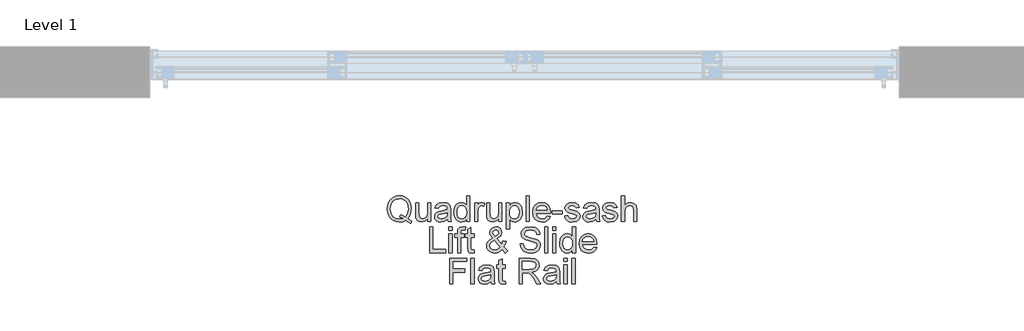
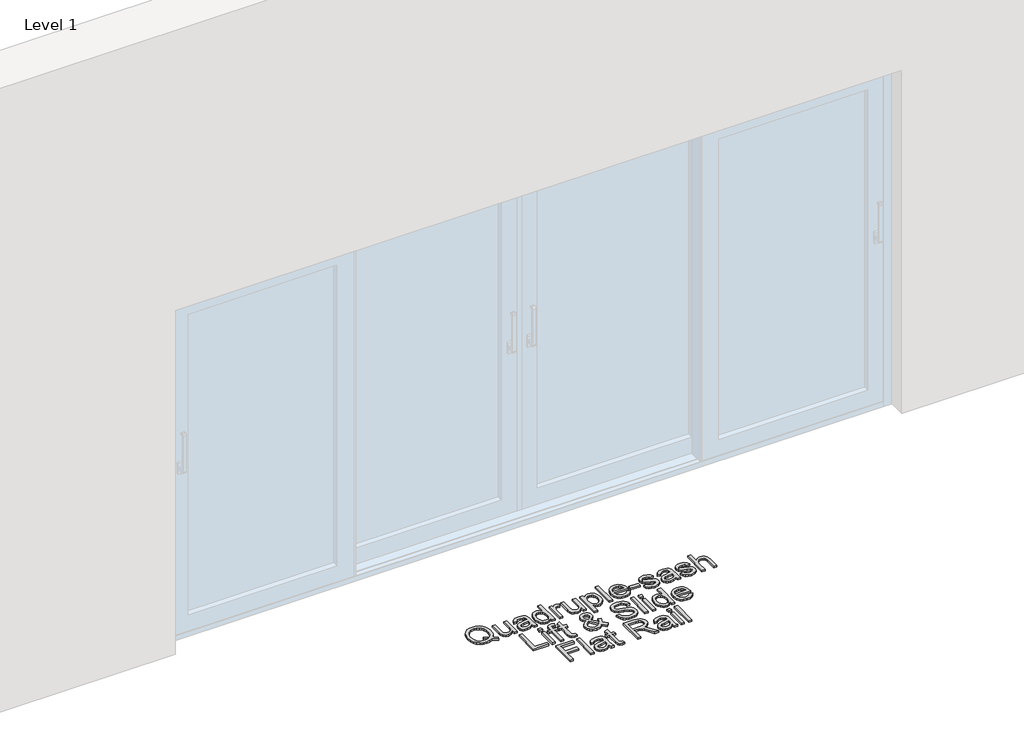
# One storey, part 5 of 7: 1 proxy.
"""IFC4 building model written with IfcOpenShell, lengths in millimetres."""

from ifc_helpers import new_model, si_unit, origin, origin_with_axes, place, context, project, spatial, polyline, outline, extrude, element, save

model = new_model("IFC4")

# Units and contexts
model_context = context("Model", 3, world=origin())
ifc_project = project(units=[si_unit("LENGTHUNIT", "METRE", prefix="MILLI")], contexts=[model_context])

# Site, building, storey
site = spatial("IfcSite", under=ifc_project)
building = spatial("IfcBuilding", under=site)
storey = spatial("IfcBuildingStorey", under=building, Name="Level 1", Elevation=0.0)

# Proxy
placement = place(None, origin())
element("IfcBuildingElementProxy", 1, Name="150mm Arial", ObjectType="150mm Arial", at=placement, inside=storey, context=model_context, shape_type="SweptSolid", body=[
    extrude(outline(polyline([(12292.9620646, -879.5997474), (12316.3225713, -895.3083086), (12311.2457998, -909.1038834), (12280.2333476, -891.4823358), (12262.8049381, -897.8834825), (12243.6290891, -900.0171981), (12224.3612696, -897.5569873), (12206.9512542, -890.1763547), (12192.3693316, -878.3397515), (12181.5857906, -862.5116287), (12174.922528, -843.5611074), (12172.7014404, -822.3573089), (12174.9179294, -801.1351163), (12181.5673965, -781.9086836), (12192.3095508, -765.855233), (12206.8041014, -754.151987), (12224.1497375, -747.0058793), (12243.4451481, -744.6238433), (12262.8923101, -747.0610616), (12280.3253181, -754.3727162), (12294.7968761, -766.0713637), (12305.3596879, -781.6695603), (12311.8160169, -800.3395715), (12313.9681266, -821.2536629), (12308.7442022, -854.1791015), (12302.1867057, -867.8367206), (12292.9620646, -879.5997474)]), holes=[polyline([(12248.8162252, -854.5469835), (12264.6535451, -860.534263), (12277.4374445, -868.8575931), (12290.7087874, -849.4334238), (12295.1325684, -822.2101561), (12293.5690699, -805.6324737), (12288.8785745, -791.2896744), (12281.1760452, -779.5450417), (12270.5764452, -770.7618591), (12257.7971444, -765.2850159), (12243.5555127, -763.4594015), (12223.0276974, -767.152017), (12206.3258548, -778.2298636), (12195.2342126, -796.6377589), (12191.5369986, -822.3205207), (12195.1928259, -847.4514595), (12206.1603079, -865.9697195), (12222.8115667, -877.3786598), (12243.5187245, -881.18164), (12263.7890224, -877.318879), (12243.9601829, -868.9679577), (12248.8162252, -854.5469835)])]), origin_with_axes(), (0.0, 0.0, 1.0), 10.0),
    extrude(outline(polyline([(12410.5003621, -897.6627533), (12410.5003621, -878.6432542), (12395.7482941, -894.6737121), (12376.5080658, -900.0171981), (12358.7945477, -896.2648018), (12346.5808654, -886.8470227), (12340.970665, -872.9778715), (12339.867019, -855.4666885), (12339.867019, -787.0038492), (12358.7025772, -787.0038492), (12358.7025772, -846.6007324), (12359.8430114, -865.8041726), (12367.2926218, -877.0797557), (12381.3273199, -881.18164), (12397.0542752, -876.9877852), (12407.4469415, -865.5650493), (12410.5003621, -844.5773814), (12410.5003621, -787.0038492), (12429.3359203, -787.0038492), (12429.3359203, -897.6627533), (12410.5003621, -897.6627533)])), origin_with_axes(), (0.0, 0.0, 1.0), 10.0),
    extrude(outline(polyline([(12525.8681558, -883.5360847), (12507.6028147, -896.30159), (12487.4244873, -900.0171981), (12471.6837364, -897.782315), (12460.072461, -891.0776656), (12452.9125576, -880.8965314), (12450.5259232, -868.2321937), (12454.1311667, -853.3329729), (12463.6041281, -842.5172423), (12476.7926976, -836.3368247), (12493.08987, -833.5041334), (12525.7577912, -827.0294103), (12525.8681558, -822.8355555), (12524.5713718, -814.4294519), (12520.6810197, -808.9296161), (12511.9806105, -804.846126), (12499.8588987, -803.4849626), (12480.8026114, -807.1086002), (12471.7159261, -819.966076), (12452.880368, -817.6116312), (12461.0289541, -799.2175314), (12477.4364911, -788.438589), (12502.2869199, -784.6494044), (12525.1139977, -787.9971306), (12538.0082616, -796.4032342), (12543.784009, -809.1871335), (12544.7037139, -825.6682469), (12544.7037139, -849.10233), (12545.6602071, -881.8254334), (12549.4126035, -897.6627533), (12530.5770453, -897.6627533), (12525.8681558, -883.5360847)]), holes=[polyline([(12525.8681558, -845.8649684), (12495.481103, -851.6407157), (12479.2759011, -854.6941363), (12471.9366553, -859.6605432), (12469.3614813, -866.9078185), (12474.9716818, -877.0981498), (12491.434401, -881.18164), (12510.4906884, -876.6750855), (12522.777947, -865.7673844), (12525.7577912, -851.1992574), (12525.8681558, -845.8649684)])]), origin_with_axes(), (0.0, 0.0, 1.0), 10.0),
    extrude(outline(polyline([(12638.8815047, -897.6627533), (12638.8815047, -879.894053), (12626.4195021, -894.9864118), (12609.1934277, -900.0171981), (12597.0165337, -898.1961822), (12585.8697092, -892.7331346), (12576.433536, -884.0097328), (12569.3885958, -872.4076544), (12565.001603, -858.3959489), (12563.5392721, -842.4436659), (12568.9287433, -812.4612833), (12575.6609838, -800.5694978), (12585.0787629, -791.8231033), (12596.4693092, -786.4428292), (12609.1198513, -784.6494044), (12626.4838815, -789.7813583), (12638.8815047, -803.1170806), (12638.8815047, -746.9782881), (12657.7170629, -746.9782881), (12657.7170629, -897.6627533), (12638.8815047, -897.6627533)]), holes=[polyline([(12582.3748303, -842.3700895), (12584.4993488, -859.4076244), (12590.8729043, -871.5247376), (12600.1343336, -878.7674144), (12610.9224731, -881.18164), (12621.7060141, -878.877779), (12630.7329185, -871.966196), (12636.8443582, -860.3181323), (12638.8815047, -843.8048292), (12636.80757, -825.7510203), (12630.5857657, -813.2338354), (12621.328935, -805.9221808), (12610.1499209, -803.4849626), (12599.2514168, -805.8256118), (12590.3210814, -812.8475594), (12584.361393, -824.9094903), (12582.3748303, -842.3700895)])]), origin_with_axes(), (0.0, 0.0, 1.0), 10.0),
    extrude(outline(polyline([(12685.9704001, -897.6627533), (12685.9704001, -787.0038492), (12702.4515135, -787.0038492), (12702.4515135, -803.374598), (12714.1501609, -788.2914362), (12725.9223848, -784.6494044), (12744.8315193, -790.4619399), (12738.5407372, -807.3477235), (12725.2969854, -803.4849626), (12714.6468016, -807.2005707), (12707.8593788, -817.5012666), (12704.8059582, -839.5006099), (12704.8059582, -897.6627533), (12685.9704001, -897.6627533)])), origin_with_axes(), (0.0, 0.0, 1.0), 10.0),
    extrude(outline(polyline([(12827.2370862, -897.6627533), (12827.2370862, -878.6432542), (12812.4850182, -894.6737121), (12793.2447899, -900.0171981), (12775.5312718, -896.2648018), (12763.3175896, -886.8470227), (12757.7073892, -872.9778715), (12756.6037432, -855.4666885), (12756.6037432, -787.0038492), (12775.4393013, -787.0038492), (12775.4393013, -846.6007324), (12776.5797355, -865.8041726), (12784.0293459, -877.0797557), (12798.064044, -881.18164), (12813.7909993, -876.9877852), (12824.1836657, -865.5650493), (12827.2370862, -844.5773814), (12827.2370862, -787.0038492), (12846.0726444, -787.0038492), (12846.0726444, -897.6627533), (12827.2370862, -897.6627533)])), origin_with_axes(), (0.0, 0.0, 1.0), 10.0),
    extrude(outline(polyline([(12871.9715369, -940.0427592), (12871.9715369, -787.0038492), (12890.807095, -787.0038492), (12890.807095, -805.4715254), (12903.8301176, -789.8549347), (12921.414877, -784.6494044), (12934.1527911, -786.4704203), (12945.2904185, -791.9334679), (12954.3587097, -800.7074535), (12960.8886151, -812.4612833), (12966.1493276, -841.4871727), (12964.6640041, -857.5958055), (12960.2080334, -872.0029842), (12952.9239699, -883.9775431), (12942.9543678, -892.7883169), (12931.3430924, -898.2099778), (12919.1340086, -900.0171981), (12902.7448658, -895.1795499), (12890.807095, -882.9474735), (12890.807095, -940.0427592), (12871.9715369, -940.0427592)]), holes=[polyline([(12890.807095, -843.2162181), (12892.8442416, -860.1020016), (12898.9556812, -871.9110137), (12907.9733886, -878.8639834), (12918.7293384, -881.18164), (12929.6600322, -878.7812099), (12938.9076659, -871.5799199), (12945.2122436, -859.3386465), (12947.3137695, -841.8182665), (12945.2628273, -825.0244534), (12939.110001, -813.0498945), (12930.1060891, -805.8761955), (12919.5018906, -803.4849626), (12908.8563054, -806.0279469), (12899.5075042, -813.6568997), (12892.9821973, -826.1326979), (12890.807095, -843.2162181)])]), origin_with_axes(), (0.0, 0.0, 1.0), 10.0),
    extrude(outline(polyline([(12987.3393305, -897.6627533), (12987.3393305, -746.9782881), (13006.1748887, -746.9782881), (13006.1748887, -897.6627533), (12987.3393305, -897.6627533)])), origin_with_axes(), (0.0, 0.0, 1.0), 10.0),
    extrude(outline(polyline([(13111.9041741, -864.7005266), (13130.3718503, -867.0549713), (13123.7177847, -880.9701078), (13113.0997906, -891.3719712), (13098.7569913, -897.8558914), (13080.9285101, -900.0171981), (13058.8279993, -896.2877944), (13041.822654, -885.0995832), (13030.9793322, -867.1791315), (13027.3648916, -843.2530063), (13031.0161204, -818.5221391), (13041.9698068, -800.0268718), (13058.7452258, -788.4937713), (13079.8616523, -784.6494044), (13100.3204898, -788.4845742), (13116.6682459, -799.9900836), (13127.3874076, -818.4485627), (13130.9604615, -843.1426417), (13130.8500969, -848.2194132), (13046.2004498, -848.2194132), (13049.460804, -862.3184907), (13057.0345745, -872.6835659), (13067.9652683, -879.0571214), (13081.2963921, -881.18164), (13099.7640683, -877.2453026), (13111.9041741, -864.7005266)]), holes=[polyline([(13046.2004498, -829.383855), (13112.1249033, -829.383855), (13109.5773205, -819.4326471), (13104.5833224, -812.3141305), (13093.6020449, -805.6922545), (13079.7880759, -803.4849626), (13067.0915486, -805.2461976), (13056.5931161, -810.5299028), (13049.2952571, -818.765861), (13046.2004498, -829.383855)])]), origin_with_axes(), (0.0, 0.0, 1.0), 10.0),
    extrude(outline(polyline([(13140.3782405, -852.9283027), (13140.3782405, -834.0927446), (13199.2393598, -834.0927446), (13199.2393598, -852.9283027), (13140.3782405, -852.9283027)])), origin_with_axes(), (0.0, 0.0, 1.0), 10.0),
    extrude(outline(polyline([(13213.3660284, -864.7005266), (13232.2015865, -862.3460818), (13235.1722336, -870.4026975), (13240.9203898, -876.3255976), (13260.8963822, -881.18164), (13280.0998223, -876.7302678), (13286.3538162, -866.2824192), (13284.7811207, -861.4815591), (13280.0630341, -857.8211333), (13260.675653, -852.4500561), (13232.3119511, -843.2346122), (13219.932722, -832.4740638), (13215.7204732, -817.2805374), (13219.1049875, -803.2458393), (13228.3388256, -792.5220791), (13240.3133845, -786.9486669), (13256.5185864, -784.6494044), (13279.4376347, -788.3466185), (13294.0057617, -798.3530087), (13300.4804848, -815.2571864), (13281.6449267, -817.6116312), (13274.5631983, -807.2189648), (13257.9901144, -803.4849626), (13239.9638966, -807.0534179), (13234.5560313, -815.367551), (13236.8001115, -820.8489927), (13243.8266576, -825.0060593), (13260.0502536, -829.015973), (13287.6965855, -837.8819291), (13300.5356671, -847.9251076), (13305.1893744, -864.2958564), (13299.7263267, -882.3220741), (13283.9625833, -895.4002791), (13260.6388648, -900.0171981), (13241.6469568, -897.791512), (13227.7870026, -891.1144538), (13218.5347704, -880.0595999), (13213.3660284, -864.7005266)])), origin_with_axes(), (0.0, 0.0, 1.0), 10.0),
    extrude(outline(polyline([(13397.0127204, -883.5360847), (13378.7473793, -896.30159), (13358.5690519, -900.0171981), (13342.828301, -897.782315), (13331.2170255, -891.0776656), (13324.0571222, -880.8965314), (13321.6704878, -868.2321937), (13325.2757313, -853.3329729), (13334.7486927, -842.5172423), (13347.9372622, -836.3368247), (13364.2344346, -833.5041334), (13396.9023558, -827.0294103), (13397.0127204, -822.8355555), (13395.7159363, -814.4294519), (13391.8255842, -808.9296161), (13383.1251751, -804.846126), (13371.0034633, -803.4849626), (13351.947176, -807.1086002), (13342.8604907, -819.966076), (13324.0249325, -817.6116312), (13332.1735187, -799.2175314), (13348.5810557, -788.438589), (13373.4314845, -784.6494044), (13396.2585623, -787.9971306), (13409.1528262, -796.4032342), (13414.9285735, -809.1871335), (13415.8482785, -825.6682469), (13415.8482785, -849.10233), (13416.8047717, -881.8254334), (13420.5571681, -897.6627533), (13401.7216099, -897.6627533), (13397.0127204, -883.5360847)]), holes=[polyline([(13397.0127204, -845.8649684), (13366.6256676, -851.6407157), (13350.4204657, -854.6941363), (13343.0812199, -859.6605432), (13340.5060459, -866.9078185), (13346.1162463, -877.0981498), (13362.5789656, -881.18164), (13381.635253, -876.6750855), (13393.9225116, -865.7673844), (13396.9023558, -851.1992574), (13397.0127204, -845.8649684)])]), origin_with_axes(), (0.0, 0.0, 1.0), 10.0),
    extrude(outline(polyline([(13434.6838367, -864.7005266), (13453.5193948, -862.3460818), (13456.4900419, -870.4026975), (13462.2381981, -876.3255976), (13482.2141905, -881.18164), (13501.4176306, -876.7302678), (13507.6716245, -866.2824192), (13506.098929, -861.4815591), (13501.3808424, -857.8211333), (13481.9934613, -852.4500561), (13453.6297594, -843.2346122), (13441.2505303, -832.4740638), (13437.0382814, -817.2805374), (13440.4227958, -803.2458393), (13449.6566339, -792.5220791), (13461.6311928, -786.9486669), (13477.8363947, -784.6494044), (13500.755443, -788.3466185), (13515.32357, -798.3530087), (13521.7982931, -815.2571864), (13502.962735, -817.6116312), (13495.8810066, -807.2189648), (13479.3079227, -803.4849626), (13461.2817049, -807.0534179), (13455.8738396, -815.367551), (13458.1179198, -820.8489927), (13465.1444659, -825.0060593), (13481.3680619, -829.015973), (13509.0143938, -837.8819291), (13521.8534754, -847.9251076), (13526.5071827, -864.2958564), (13521.044135, -882.3220741), (13505.2803916, -895.4002791), (13481.9566731, -900.0171981), (13462.9647651, -897.791512), (13449.1048109, -891.1144538), (13439.8525787, -880.0595999), (13434.6838367, -864.7005266)])), origin_with_axes(), (0.0, 0.0, 1.0), 10.0),
    extrude(outline(polyline([(13547.6971856, -897.6627533), (13547.6971856, -746.9782881), (13566.5327438, -746.9782881), (13566.5327438, -802.3813166), (13581.2204324, -789.0823825), (13599.3110295, -784.6494044), (13620.4642442, -789.4870527), (13633.3033259, -802.8595632), (13637.1660868, -827.6180215), (13637.1660868, -897.6627533), (13618.3305287, -897.6627533), (13618.3305287, -829.567796), (13616.8314095, -817.7771781), (13612.3340522, -809.7021683), (13605.0867768, -805.039264), (13595.337904, -803.4849626), (13579.9052543, -807.6788173), (13569.6045584, -819.046371), (13566.5327438, -838.8752105), (13566.5327438, -897.6627533), (13547.6971856, -897.6627533)])), origin_with_axes(), (0.0, 0.0, 1.0), 10.0),
    extrude(outline(polyline([(12421.0953636, -1080.6249801), (12421.0953636, -929.9405149), (12439.9309217, -929.9405149), (12439.9309217, -1061.789422), (12515.2731543, -1061.789422), (12515.2731543, -1080.6249801), (12421.0953636, -1080.6249801)])), origin_with_axes(), (0.0, 0.0, 1.0), 10.0),
    extrude(outline(polyline([(12534.1087125, -948.776073), (12534.1087125, -929.9405149), (12552.9442706, -929.9405149), (12552.9442706, -948.776073), (12534.1087125, -948.776073)])), origin_with_axes(), (0.0, 0.0, 1.0), 10.0),
    extrude(outline(polyline([(12534.1087125, -1080.6249801), (12534.1087125, -969.966076), (12552.9442706, -969.966076), (12552.9442706, -1080.6249801), (12534.1087125, -1080.6249801)])), origin_with_axes(), (0.0, 0.0, 1.0), 10.0),
    extrude(outline(polyline([(12682.4387329, -1064.9164189), (12684.7931777, -1081.1768031), (12670.7032973, -1082.9794249), (12654.9211597, -1079.8524279), (12647.048485, -1071.6486594), (12644.7676166, -1050.2747155), (12644.7676166, -988.8016341), (12630.640948, -988.8016341), (12630.640948, -969.966076), (12644.7676166, -969.966076), (12644.7676166, -943.0739021), (12663.6031748, -932.0006541), (12663.6031748, -969.966076), (12682.4387329, -969.966076), (12682.4387329, -988.8016341), (12663.6031748, -988.8016341), (12663.6031748, -1049.7228925), (12664.5964562, -1059.4349772), (12667.8154236, -1062.8746738), (12674.2349645, -1064.1438667), (12682.4387329, -1064.9164189)])), origin_with_axes(), (0.0, 0.0, 1.0), 10.0),
    extrude(outline(polyline([(12585.9064974, -1080.6249801), (12585.9064974, -988.8016341), (12569.425384, -988.8016341), (12569.425384, -969.966076), (12585.9064974, -969.966076), (12585.9064974, -958.8192515), (12587.8930602, -943.1106903), (12597.5315685, -931.8902895), (12616.5142794, -927.5860701), (12633.6943686, -929.6462093), (12630.9352536, -947.3045451), (12620.0827348, -946.4216283), (12608.2185404, -949.5486252), (12604.7420556, -961.2104845), (12604.7420556, -969.966076), (12625.9320585, -969.966076), (12625.9320585, -988.8016341), (12604.7420556, -988.8016341), (12604.7420556, -1080.6249801), (12585.9064974, -1080.6249801)])), origin_with_axes(), (0.0, 0.0, 1.0), 10.0),
    extrude(outline(polyline([(12846.550891, -1062.0101512), (12826.5748987, -1077.7371064), (12803.214392, -1082.9794249), (12782.4290592, -1079.0982698), (12766.4261924, -1067.4548047), (12758.1764387, -1054.054703), (12755.4265208, -1039.1646793), (12757.6384113, -1025.9669127), (12764.2740828, -1014.1119154), (12775.3059441, -1003.6088844), (12790.7064041, -994.4670168), (12777.5546228, -975.4107295), (12774.2620789, -961.2840609), (12776.855647, -948.5645409), (12784.6363512, -937.6292486), (12796.3441957, -930.0968647), (12810.7191847, -927.5860701), (12824.3951978, -929.9865001), (12835.3304901, -937.1877902), (12842.504189, -947.7552005), (12844.895422, -960.2539913), (12843.1249899, -970.7478252), (12837.8136936, -980.4507128), (12816.5685084, -997.4836492), (12843.8285642, -1031.4391574), (12851.9587563, -1010.5802482), (12870.7943145, -1014.6637384), (12857.4769862, -1045.6761906), (12880.2120935, -1068.4848743), (12866.0854249, -1082.9794249), (12846.550891, -1062.0101512)]), holes=[polyline([(12807.0403647, -985.6010608), (12822.5281967, -973.9208074), (12826.0598639, -962.8291653), (12821.4061566, -951.0017591), (12809.7626915, -946.4216283), (12797.8617089, -950.9649709), (12793.0976371, -962.0566131), (12794.7163179, -968.9544005), (12799.6091484, -976.6247401), (12807.0403647, -985.6010608)]), polyline([(12833.9325386, -1048.4353055), (12800.3081242, -1006.4599699), (12779.614762, -1022.2421075), (12774.2620789, -1036.6630817), (12776.0922919, -1045.5474319), (12781.5829306, -1054.7628758), (12790.4304926, -1061.798619), (12802.3314752, -1064.1438667), (12819.640323, -1059.766071), (12833.9325386, -1048.4353055)])]), origin_with_axes(), (0.0, 0.0, 1.0), 10.0),
    extrude(outline(polyline([(12953.1998814, -1028.8271952), (12972.0354395, -1028.8271952), (12978.1054925, -1047.6811474), (12992.9311369, -1059.6005241), (13015.5190914, -1064.1438667), (13035.2007781, -1060.7041701), (13047.9111011, -1051.2496028), (13052.0865617, -1038.6128563), (13048.9595647, -1026.8590265), (13036.1572713, -1018.3057701), (13008.7316686, -1011.1136771), (12979.2091385, -1001.8246567), (12963.1878776, -987.8083527), (12957.9087709, -969.0831592), (12959.5412473, -958.0512978), (12964.4386763, -947.7643976), (12972.4722994, -939.0455943), (12983.5133578, -932.7180239), (13011.4356012, -927.5860701), (13041.2340428, -932.9571472), (13052.6567788, -939.5882202), (13061.0996706, -948.7392848), (13066.4431566, -959.840124), (13068.5676751, -972.3205207), (13049.7321169, -972.3205207), (13046.2740262, -961.0817258), (13039.0635391, -952.9699278), (13027.797153, -948.0587031), (13012.1713652, -946.4216283), (12996.1776955, -948.040309), (12985.205615, -952.8963514), (12978.8596506, -960.0424591), (12976.7443291, -968.5313362), (12978.2434482, -975.7694144), (12982.7408056, -981.591147), (13013.4957404, -992.1125721), (13046.8258492, -1001.5671393), (13057.5634049, -1008.4005474), (13065.054402, -1016.8342421), (13069.4551904, -1026.7762531), (13070.9221198, -1038.1346097), (13069.2344612, -1049.7458851), (13064.1714852, -1060.6673819), (13055.9401256, -1070.0667668), (13044.7473159, -1077.1117071), (13031.2874334, -1081.5124954), (13016.2548554, -1082.9794249), (12997.8009748, -1081.3975323), (12982.6120469, -1076.6518546), (12970.5133278, -1068.7239976), (12961.3300735, -1057.5955672), (12955.4347645, -1044.0391157), (12953.1998814, -1028.8271952)])), origin_with_axes(), (0.0, 0.0, 1.0), 10.0),
    extrude(outline(polyline([(13096.8210123, -1080.6249801), (13096.8210123, -929.9405149), (13115.6565705, -929.9405149), (13115.6565705, -1080.6249801), (13096.8210123, -1080.6249801)])), origin_with_axes(), (0.0, 0.0, 1.0), 10.0),
    extrude(outline(polyline([(13143.9099077, -948.776073), (13143.9099077, -929.9405149), (13162.7454658, -929.9405149), (13162.7454658, -948.776073), (13143.9099077, -948.776073)])), origin_with_axes(), (0.0, 0.0, 1.0), 10.0),
    extrude(outline(polyline([(13143.9099077, -1080.6249801), (13143.9099077, -969.966076), (13162.7454658, -969.966076), (13162.7454658, -1080.6249801), (13143.9099077, -1080.6249801)])), origin_with_axes(), (0.0, 0.0, 1.0), 10.0),
    extrude(outline(polyline([(13259.2777014, -1080.6249801), (13259.2777014, -1062.8562797), (13246.8156988, -1077.9486386), (13229.5896244, -1082.9794249), (13217.4127303, -1081.158409), (13206.2659059, -1075.6953614), (13196.8297327, -1066.9719596), (13189.7847925, -1055.3698811), (13185.3977997, -1041.3581756), (13183.9354688, -1025.4058926), (13189.32494, -995.42351), (13196.0571805, -983.5317245), (13205.4749596, -974.7853301), (13216.8655059, -969.4050559), (13229.516048, -967.6116312), (13246.8800781, -972.743585), (13259.2777014, -986.0793073), (13259.2777014, -929.9405149), (13278.1132595, -929.9405149), (13278.1132595, -1080.6249801), (13259.2777014, -1080.6249801)]), holes=[polyline([(13202.7710269, -1025.3323162), (13204.8955454, -1042.3698511), (13211.269101, -1054.4869644), (13220.5305302, -1061.7296411), (13231.3186697, -1064.1438667), (13242.1022107, -1061.8400057), (13251.1291152, -1054.9284227), (13257.2405548, -1043.2803591), (13259.2777014, -1026.767056), (13257.2037666, -1008.7132471), (13250.9819624, -996.1960622), (13241.7251317, -988.8844076), (13230.5461176, -986.4471893), (13219.6476134, -988.7878385), (13210.717278, -995.8097861), (13204.7575897, -1007.871717), (13202.7710269, -1025.3323162)])]), origin_with_axes(), (0.0, 0.0, 1.0), 10.0),
    extrude(outline(polyline([(13383.8425449, -1047.6627533), (13402.3102211, -1050.0171981), (13395.6561555, -1063.9323346), (13385.0381614, -1074.334198), (13370.6953621, -1080.8181182), (13352.866881, -1082.9794249), (13330.7663701, -1079.2500212), (13313.7610249, -1068.06181), (13302.9177031, -1050.1413583), (13299.3032625, -1026.215233), (13302.9544913, -1001.4843659), (13313.9081777, -982.9890986), (13330.6835966, -971.455998), (13351.8000232, -967.6116312), (13372.2588606, -971.446801), (13388.6066168, -982.9523104), (13399.3257784, -1001.4107895), (13402.8988323, -1026.1048684), (13402.7884677, -1031.18164), (13318.1388206, -1031.18164), (13321.3991748, -1045.2807174), (13328.9729454, -1055.6457926), (13339.9036391, -1062.0193482), (13353.2347629, -1064.1438667), (13371.7024391, -1060.2075294), (13383.8425449, -1047.6627533)]), holes=[polyline([(13318.1388206, -1012.3460818), (13384.0632741, -1012.3460818), (13381.5156913, -1002.3948738), (13376.5216932, -995.2763572), (13365.5404157, -988.6544813), (13351.7264468, -986.4471893), (13339.0299194, -988.2084244), (13328.531487, -993.4921296), (13321.2336279, -1001.7280877), (13318.1388206, -1012.3460818)])]), origin_with_axes(), (0.0, 0.0, 1.0), 10.0),
    extrude(outline(polyline([(12538.817602, -1263.5872069), (12538.817602, -1112.9027417), (12640.0587271, -1112.9027417), (12640.0587271, -1131.7382998), (12557.6531602, -1131.7382998), (12557.6531602, -1176.4727504), (12628.2865033, -1176.4727504), (12628.2865033, -1195.3083086), (12557.6531602, -1195.3083086), (12557.6531602, -1263.5872069), (12538.817602, -1263.5872069)])), origin_with_axes(), (0.0, 0.0, 1.0), 10.0),
    extrude(outline(polyline([(12663.6031748, -1263.5872069), (12663.6031748, -1112.9027417), (12682.4387329, -1112.9027417), (12682.4387329, -1263.5872069), (12663.6031748, -1263.5872069)])), origin_with_axes(), (0.0, 0.0, 1.0), 10.0),
    extrude(outline(polyline([(12781.3254132, -1249.4605383), (12763.0600722, -1262.2260435), (12742.8817448, -1265.9416516), (12727.1409939, -1263.7067685), (12715.5297184, -1257.0021192), (12708.3698151, -1246.8209849), (12705.9831806, -1234.1566473), (12709.5884242, -1219.2574265), (12719.0613856, -1208.4416958), (12732.2499551, -1202.2612783), (12748.5471275, -1199.4285869), (12781.2150486, -1192.9538638), (12781.3254132, -1188.7600091), (12780.0286292, -1180.3539055), (12776.1382771, -1174.8540696), (12767.4378679, -1170.7705795), (12755.3161562, -1169.4094161), (12736.2598688, -1173.0330538), (12727.1731836, -1185.8905295), (12708.3376254, -1183.5360847), (12716.4862116, -1165.141985), (12732.8937486, -1154.3630425), (12757.7441774, -1150.573858), (12780.5712552, -1153.9215841), (12793.4655191, -1162.3276877), (12799.2412664, -1175.111587), (12800.1609714, -1191.5927004), (12800.1609714, -1215.0267835), (12801.1174646, -1247.749887), (12804.8698609, -1263.5872069), (12786.0343028, -1263.5872069), (12781.3254132, -1249.4605383)]), holes=[polyline([(12781.3254132, -1211.789422), (12750.9383604, -1217.5651693), (12734.7331586, -1220.6185898), (12727.3939128, -1225.5849968), (12724.8187388, -1232.8322721), (12730.4289392, -1243.0226033), (12746.8916585, -1247.1060935), (12765.9479458, -1242.5995391), (12778.2352045, -1231.6918379), (12781.2150486, -1217.1237109), (12781.3254132, -1211.789422)])]), origin_with_axes(), (0.0, 0.0, 1.0), 10.0),
    extrude(outline(polyline([(12866.0854249, -1247.8786457), (12868.4398697, -1264.1390299), (12854.3499893, -1265.9416516), (12838.5678517, -1262.8146547), (12830.695177, -1254.6108862), (12828.4143086, -1233.2369423), (12828.4143086, -1171.7638609), (12814.28764, -1171.7638609), (12814.28764, -1152.9283027), (12828.4143086, -1152.9283027), (12828.4143086, -1126.0361289), (12847.2498668, -1114.9628808), (12847.2498668, -1152.9283027), (12866.0854249, -1152.9283027), (12866.0854249, -1171.7638609), (12847.2498668, -1171.7638609), (12847.2498668, -1232.6851193), (12848.2431482, -1242.397204), (12851.4621156, -1245.8369006), (12857.8816564, -1247.1060935), (12866.0854249, -1247.8786457)])), origin_with_axes(), (0.0, 0.0, 1.0), 10.0),
    extrude(outline(polyline([(12946.1365471, -1263.5872069), (12946.1365471, -1112.9027417), (13011.0677192, -1112.9027417), (13041.2156487, -1116.9678377), (13050.4954721, -1122.5964322), (13057.6967621, -1131.3520237), (13062.3182797, -1142.2091411), (13063.8587855, -1154.1423133), (13061.3066042, -1168.9863518), (13053.6500602, -1181.2920046), (13040.6592272, -1190.3143105), (13022.1041791, -1195.3083086), (13032.8095451, -1203.3649243), (13048.0766479, -1222.7523054), (13073.2029882, -1263.5872069), (13051.3140095, -1263.5872069), (13031.7058992, -1232.3540255), (13017.5424423, -1211.6790574), (13007.5912344, -1201.9117904), (12998.6333078, -1198.3249409), (12987.7072125, -1197.6627533), (12964.9721052, -1197.6627533), (12964.9721052, -1263.5872069), (12946.1365471, -1263.5872069)]), holes=[polyline([(12964.9721052, -1178.8271952), (13007.1313819, -1178.8271952), (13028.6340845, -1176.1600507), (13040.8477667, -1167.6251884), (13045.0232274, -1154.8412891), (13043.0320661, -1145.6534363), (13037.0585822, -1138.2498111), (13026.780879, -1133.3661776), (13011.8770596, -1131.7382998), (12964.9721052, -1131.7382998), (12964.9721052, -1178.8271952)])]), origin_with_axes(), (0.0, 0.0, 1.0), 10.0),
    extrude(outline(polyline([(13165.0999106, -1249.4605383), (13146.8345696, -1262.2260435), (13126.6562421, -1265.9416516), (13110.9154913, -1263.7067685), (13099.3042158, -1257.0021192), (13092.1443124, -1246.8209849), (13089.757678, -1234.1566473), (13093.3629216, -1219.2574265), (13102.8358829, -1208.4416958), (13116.0244525, -1202.2612783), (13132.3216248, -1199.4285869), (13164.989546, -1192.9538638), (13165.0999106, -1188.7600091), (13163.8031266, -1180.3539055), (13159.9127745, -1174.8540696), (13151.2123653, -1170.7705795), (13139.0906536, -1169.4094161), (13120.0343662, -1173.0330538), (13110.9476809, -1185.8905295), (13092.1121228, -1183.5360847), (13100.260709, -1165.141985), (13116.6682459, -1154.3630425), (13141.5186747, -1150.573858), (13164.3457525, -1153.9215841), (13177.2400165, -1162.3276877), (13183.0157638, -1175.111587), (13183.9354688, -1191.5927004), (13183.9354688, -1215.0267835), (13184.891962, -1247.749887), (13188.6443583, -1263.5872069), (13169.8088002, -1263.5872069), (13165.0999106, -1249.4605383)]), holes=[polyline([(13165.0999106, -1211.789422), (13134.7128578, -1217.5651693), (13118.5076559, -1220.6185898), (13111.1684101, -1225.5849968), (13108.5932362, -1232.8322721), (13114.2034366, -1243.0226033), (13130.6661559, -1247.1060935), (13149.7224432, -1242.5995391), (13162.0097019, -1231.6918379), (13164.989546, -1217.1237109), (13165.0999106, -1211.789422)])]), origin_with_axes(), (0.0, 0.0, 1.0), 10.0),
    extrude(outline(polyline([(13209.8343612, -1131.7382998), (13209.8343612, -1112.9027417), (13228.6699194, -1112.9027417), (13228.6699194, -1131.7382998), (13209.8343612, -1131.7382998)])), origin_with_axes(), (0.0, 0.0, 1.0), 10.0),
    extrude(outline(polyline([(13209.8343612, -1263.5872069), (13209.8343612, -1152.9283027), (13228.6699194, -1152.9283027), (13228.6699194, -1263.5872069), (13209.8343612, -1263.5872069)])), origin_with_axes(), (0.0, 0.0, 1.0), 10.0),
    extrude(outline(polyline([(13256.9232566, -1263.5872069), (13256.9232566, -1112.9027417), (13275.7588148, -1112.9027417), (13275.7588148, -1263.5872069), (13256.9232566, -1263.5872069)])), origin_with_axes(), (0.0, 0.0, 1.0), 10.0),
])

save(model, "model.ifc")
